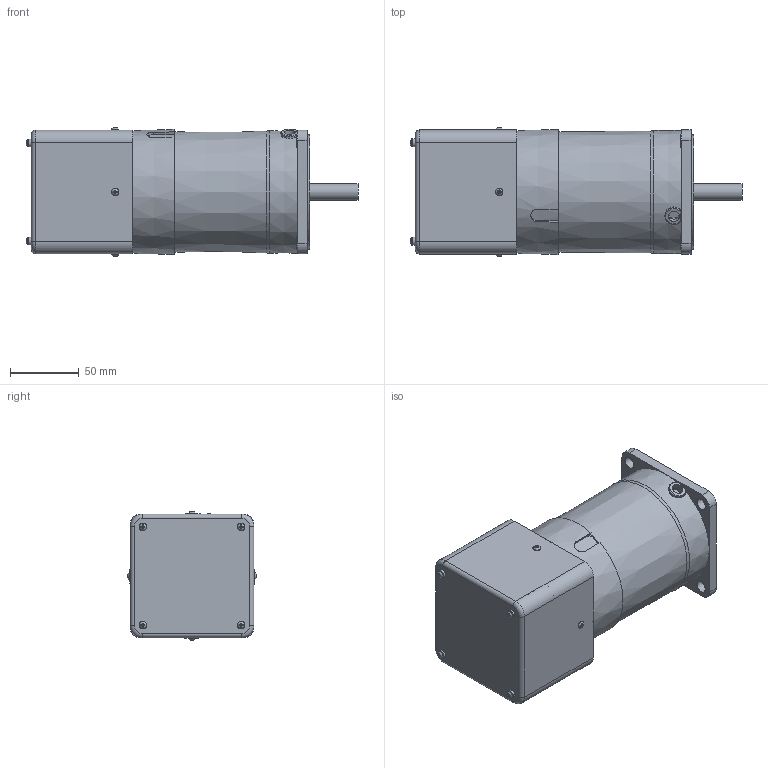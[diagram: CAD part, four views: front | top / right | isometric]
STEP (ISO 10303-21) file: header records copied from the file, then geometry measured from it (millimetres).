
FILE_DESCRIPTION(/* description */ (''),/* implementation_level */ '2;1');
FILE_NAME(/* name */ 'Y:\제품연구개발\3. 도면\3. 고객배포용\3D_홈페이지용\01-1 Standard AC SG Series\05-3 SPEED CONTROL ELECTROMAGNETIC BRAKE MOTOR(ES)\SG9R60_-ES12\SG9R60S-ES.stp',/* time_stamp */ '2023-12-01T09:38:42+09:00',/* author */ ('shyi1037'),/* organization */ (''),/* preprocessor_version */ 'ST-DEVELOPER v18.1',/* originating_system */ 'Autodesk Inventor 2022',/* authorisation */ '');
FILE_SCHEMA (('AUTOMOTIVE_DESIGN { 1 0 10303 214 3 1 1 }'));
Length unit declared in the file: millimetre
Products named in the file (1): S9R60S-ES
Bounding box: 241.25 x 93.89 x 93.89 mm (x, y, z)
Volume: 1129278.9 mm3; surface area: 113273.8 mm2
Topology: 1 solids, 7 shells, 290 faces, 713 edges, 468 vertices
Faces by surface type: plane 177, cylinder 72, torus 26, bspline 8, cone 7
Full cylindrical faces by diameter (mm): 3 x8, 4.5 x4, 5.6 x12, 8 x1, 8.5 x4, 9.5 x4, 10 x1, 12 x1, 40 x1, 83 x1, 86 x1
Entity records: 9324 total; most frequent: CARTESIAN_POINT 2373, ORIENTED_EDGE 1426, DIRECTION 1381, EDGE_CURVE 713, AXIS2_PLACEMENT_3D 506, VERTEX_POINT 468, LINE 369, VECTOR 369
